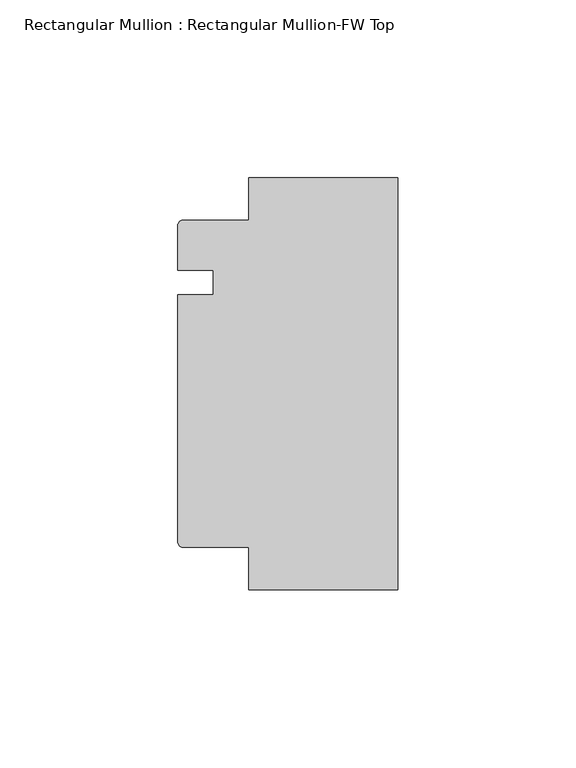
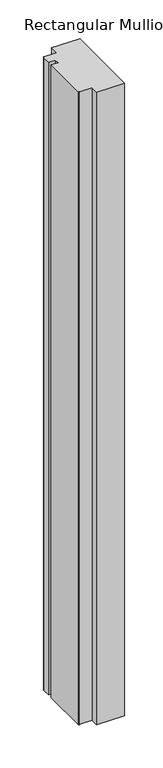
"""IFC4 building model written with IfcOpenShell, lengths in millimetres: member geometry, Rectangular Mullion : Rectangular Mullion-FW Top."""

from ifc_helpers import new_model, si_unit, point, frame, frame_2d, origin, place, context, project, spatial, polyline, circle_curve, trimmed, segment, composite_curve, outline, extrude, source, transform, mapped, element, save


def rectangular_mullion_rectangular_mullion_fw_top_c0870f2a(model_context):
    return source(origin(), model_context, "Body", "SweptSolid", [
        extrude(outline(composite_curve([segment(trimmed(circle_curve(frame_2d((-60.5201031, -90.5201031)), 1.4798969), [point((-60.5201031, -92.0))], [point((-62.0, -90.5201031))], False, "CARTESIAN"), True, "CONTINUOUS"), segment(polyline([(-62.0, -90.5201031), (-62.0, -21.0), (-52.0, -21.0), (-52.0, -14.0), (-62.0, -14.0), (-62.0, -1.4798969)]), True, "CONTINUOUS"), segment(trimmed(circle_curve(frame_2d((-60.5201031, -1.4798969)), 1.4798969), [point((-62.0, -1.4798969))], [point((-60.5201031, 0.0))], False, "CARTESIAN"), True, "CONTINUOUS"), segment(polyline([(-60.5201031, 0.0), (-42.0, 0.0), (-42.0, 12.0), (0.0, 12.0), (0.0, -104.0), (-42.0, -104.0), (-42.0, -92.0), (-60.5201031, -92.0)]), True, "CONTINUOUS")], self_intersect=False)), frame((0.0, 0.0, -1000.0), z_axis=(0.0, 0.0, 1.0), x_axis=(1.0, 0.0, 0.0)), (0.0, 0.0, 1.0), 1000.0),
    ])


if __name__ == "__main__":
    model = new_model("IFC4")
    model_context = context("Model", 3, world=origin())
    ifc_project = project(units=[si_unit("LENGTHUNIT", "METRE", prefix="MILLI")], contexts=[model_context])
    site = spatial("IfcSite", under=ifc_project)
    building = spatial("IfcBuilding", under=site)
    placement = place(None, origin())
    rectangular_mullion_rectangular_mullion_fw_top_shape = rectangular_mullion_rectangular_mullion_fw_top_c0870f2a(model_context)
    element("IfcMember", 1, ObjectType="Rectangular Mullion : Rectangular Mullion-FW Top", at=placement, inside=building, context=model_context, shape_type="MappedRepresentation", body=[
        mapped(rectangular_mullion_rectangular_mullion_fw_top_shape, transform((0.0, 0.0, 0.0), x_axis=(1.0, 0.0, 0.0), y_axis=(0.0, 1.0, 0.0), z_axis=(0.0, 0.0, 1.0))),
    ])
    save(model, "model.ifc")
